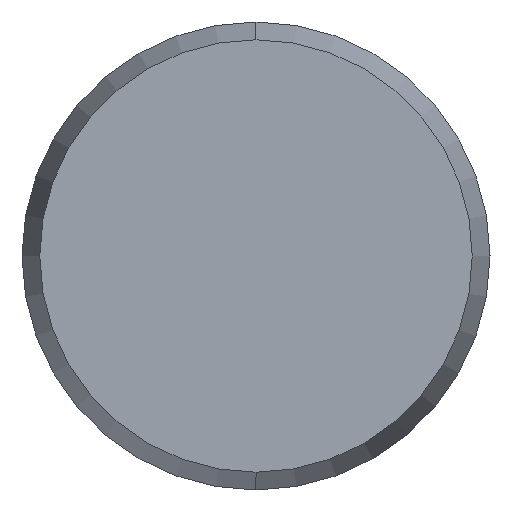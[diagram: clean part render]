
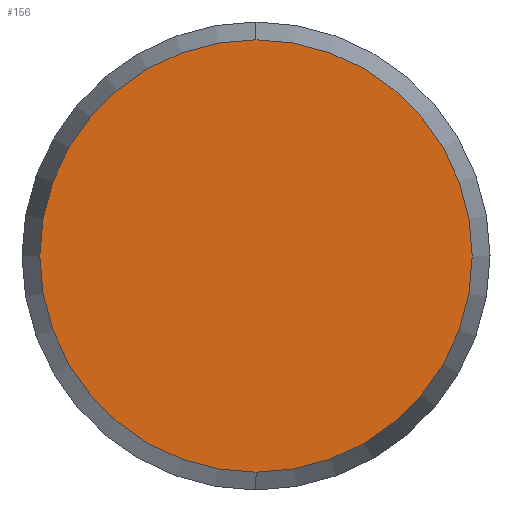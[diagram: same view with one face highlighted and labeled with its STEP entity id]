
A CAD part, left-side view. The second image highlights one B-rep face of the part: STEP entity #156.
In plain terms, the highlighted planar face has unit normal (-1, 0, 0).
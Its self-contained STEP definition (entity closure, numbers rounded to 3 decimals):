
#137 = EDGE_CURVE ( 'NONE', #138, #139, #221, .T. ) ;
#138 = VERTEX_POINT ( 'NONE', #216 ) ;
#139 = VERTEX_POINT ( 'NONE', #215 ) ;
#153 = EDGE_CURVE ( 'NONE', #139, #138, #195, .T. ) ;
#156 = ADVANCED_FACE ( 'NONE', ( #187 ), #186, .F. ) ;
#157 = EDGE_LOOP ( 'NONE', ( #158, #159 ) ) ;
#158 = ORIENTED_EDGE ( 'NONE', *, *, #137, .F. ) ;
#159 = ORIENTED_EDGE ( 'NONE', *, *, #153, .F. ) ;
#182 = DIRECTION ( 'NONE',  ( 1., 0., 0. ) ) ;
#183 = CARTESIAN_POINT ( 'NONE',  ( -16., 0., 0. ) ) ;
#185 = AXIS2_PLACEMENT_3D ( 'NONE', #183, #182, #275 ) ;
#186 = PLANE ( 'NONE',  #185 ) ;
#187 = FACE_OUTER_BOUND ( 'NONE', #157, .T. ) ;
#188 = DIRECTION ( 'NONE',  ( 0., 0., -1. ) ) ;
#189 = DIRECTION ( 'NONE',  ( 1., 0., 0. ) ) ;
#190 = CARTESIAN_POINT ( 'NONE',  ( -16., 0., 0. ) ) ;
#191 = AXIS2_PLACEMENT_3D ( 'NONE', #190, #189, #188 ) ;
#195 = CIRCLE ( 'NONE', #191, 5.544 ) ;
#215 = CARTESIAN_POINT ( 'NONE',  ( -16., 0., -5.544 ) ) ;
#216 = CARTESIAN_POINT ( 'NONE',  ( -16., 0., 5.544 ) ) ;
#217 = DIRECTION ( 'NONE',  ( 0., 0., -1. ) ) ;
#218 = DIRECTION ( 'NONE',  ( 1., 0., 0. ) ) ;
#219 = CARTESIAN_POINT ( 'NONE',  ( -16., 0., 0. ) ) ;
#220 = AXIS2_PLACEMENT_3D ( 'NONE', #219, #218, #217 ) ;
#221 = CIRCLE ( 'NONE', #220, 5.544 ) ;
#275 = DIRECTION ( 'NONE',  ( 0., 0., -1. ) ) ;
